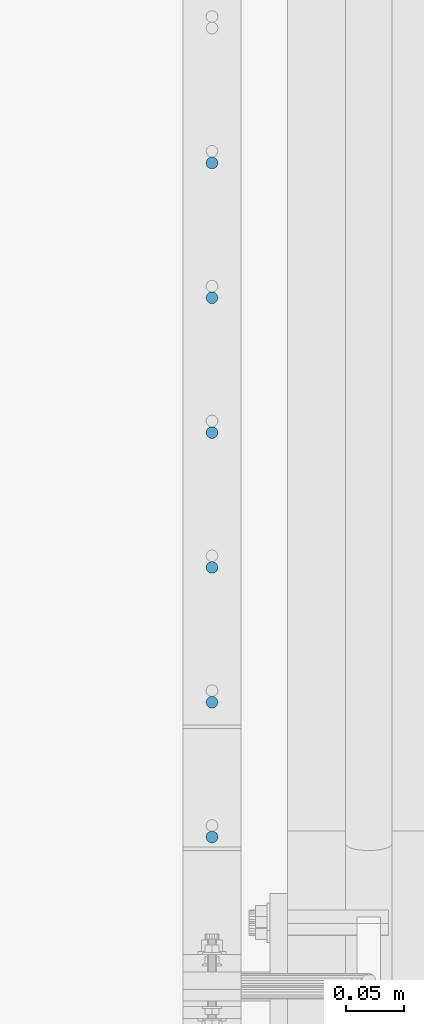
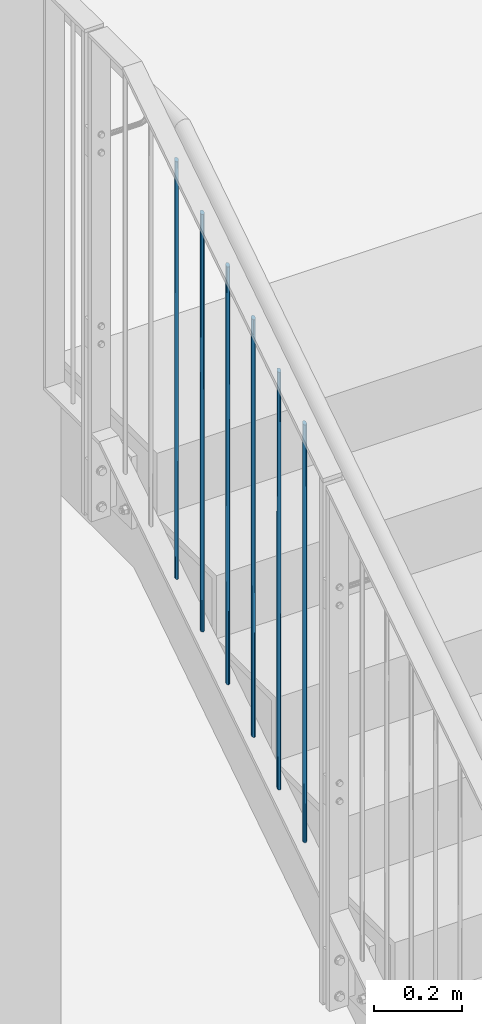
# One storey, part 17 of 296: 6 columns.
"""IFC2X3 building model written with IfcOpenShell, lengths in millimetres."""

from ifc_helpers import new_model, entity, si_unit, converted_unit, frame, origin, origin_with_axes, origin_2d, place, context, project, spatial, circle, extrude, clip, halfspace, material, element, save


model = new_model("IFC2X3")

# Units and contexts
model_context = context("Model", 3, precision=1e-09, world=origin_with_axes())
ifc_project = project(units=[si_unit("LENGTHUNIT", "METRE", prefix="MILLI"), si_unit("AREAUNIT", "SQUARE_METRE"), si_unit("VOLUMEUNIT", "CUBIC_METRE"), converted_unit("PLANEANGLEUNIT", "DEGREE", entity("IfcPlaneAngleMeasure", 0.01745329), si_unit("PLANEANGLEUNIT", "RADIAN"), dimensions=[0, 0, 0, 0, 0, 0, 0])], contexts=[model_context])

# Site, building, storey
site_placement = place(None, origin_with_axes())
site = spatial("IfcSite", under=ifc_project, at=site_placement, Name="TZD-S?d | Treppenhausgel?nder", CompositionType="ELEMENT")
building_placement = place(site_placement, origin_with_axes())
building = spatial("IfcBuilding", under=site, at=building_placement, Name="Struktur 1", CompositionType="ELEMENT")
storey_placement = place(building_placement, origin_with_axes())
storey = spatial("IfcBuildingStorey", under=building, at=storey_placement, Name="Default Storey", CompositionType="ELEMENT", Elevation=0.0)

# Columns
ifc_material = material(Name="S235JR")
column_1_placement = place(None, frame((-45.0, -855.8333333, 2237.236463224), z_axis=(0.0, 0.0, 1.0), x_axis=(0.0, 1.0, 0.0)))
element("IfcColumn", 1, at=column_1_placement, inside=storey, material=ifc_material, Name="-", ObjectType="-", context=model_context, shape_type="Clipping", body=[
    clip(clip(extrude(circle(Radius=5.0, at=origin_2d()), origin(), (0.0, 0.0, 1.0), 1184.937475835), halfspace(frame((-425.744746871, -45.0, -261.817206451), z_axis=(-0.544258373, 0.0, 0.83891765), x_axis=(0.0, -1.0, 0.0)), True)), halfspace(frame((-953.632278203, -45.0, 551.866494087), z_axis=(0.544258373, 0.0, -0.83891765), x_axis=(0.0, 1.0, 0.0)), True)),
])
column_2_placement = place(None, frame((-45.0, -971.9444444, 2161.90792001), z_axis=(0.0, 0.0, 1.0), x_axis=(0.0, 1.0, 0.0)))
element("IfcColumn", 2, at=column_2_placement, inside=storey, material=ifc_material, Name="-", ObjectType="-", context=model_context, shape_type="Clipping", body=[
    clip(clip(extrude(circle(Radius=5.0, at=origin_2d()), origin(), (0.0, 0.0, 1.0), 1184.937475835), halfspace(frame((-309.633635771, -45.0, -186.488663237), z_axis=(-0.544258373, 0.0, 0.83891765), x_axis=(0.0, -1.0, 0.0)), True)), halfspace(frame((-837.521167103, -45.0, 627.195037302), z_axis=(0.544258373, 0.0, -0.83891765), x_axis=(0.0, 1.0, 0.0)), True)),
])
column_3_placement = place(None, frame((-45.0, -1088.0555555, 2086.579376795), z_axis=(0.0, 0.0, 1.0), x_axis=(0.0, 1.0, 0.0)))
element("IfcColumn", 3, at=column_3_placement, inside=storey, material=ifc_material, Name="-", ObjectType="-", context=model_context, shape_type="Clipping", body=[
    clip(clip(extrude(circle(Radius=5.0, at=origin_2d()), origin(), (0.0, 0.0, 1.0), 1184.937475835), halfspace(frame((-721.410056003, -45.0, 702.523580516), z_axis=(0.544258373, 0.0, -0.83891765), x_axis=(0.0, 1.0, 0.0)), True)), halfspace(frame((-193.522524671, -45.0, -111.160120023), z_axis=(-0.544258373, 0.0, 0.83891765), x_axis=(0.0, -1.0, 0.0)), True)),
])
column_4_placement = place(None, frame((-45.0, -1204.1666666, 2011.250833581), z_axis=(0.0, 0.0, 1.0), x_axis=(0.0, 1.0, 0.0)))
element("IfcColumn", 4, at=column_4_placement, inside=storey, material=ifc_material, Name="-", ObjectType="-", context=model_context, shape_type="Clipping", body=[
    clip(clip(extrude(circle(Radius=5.0, at=origin_2d()), origin(), (0.0, 0.0, 1.0), 1184.937475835), halfspace(frame((-605.298944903, -45.0, 777.85212373), z_axis=(0.544258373, 0.0, -0.83891765), x_axis=(0.0, 1.0, 0.0)), True)), halfspace(frame((-77.411413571, -45.0, -35.831576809), z_axis=(-0.544258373, 0.0, 0.83891765), x_axis=(0.0, -1.0, 0.0)), True)),
])
column_5_placement = place(None, frame((-45.0, -1320.2777777, 1935.922290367), z_axis=(0.0, 0.0, 1.0), x_axis=(0.0, 1.0, 0.0)))
element("IfcColumn", 5, at=column_5_placement, inside=storey, material=ifc_material, Name="-", ObjectType="-", context=model_context, shape_type="Clipping", body=[
    clip(clip(extrude(circle(Radius=5.0, at=origin_2d()), origin(), (0.0, 0.0, 1.0), 1184.937475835), halfspace(frame((-489.187833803, -45.0, 853.180666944), z_axis=(0.544258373, 0.0, -0.83891765), x_axis=(0.0, 1.0, 0.0)), True)), halfspace(frame((38.699697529, -45.0, 39.496966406), z_axis=(-0.544258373, 0.0, 0.83891765), x_axis=(0.0, -1.0, 0.0)), True)),
])
column_6_placement = place(None, frame((-45.0, -1436.3888888, 1860.593747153), z_axis=(0.0, 0.0, 1.0), x_axis=(0.0, 1.0, 0.0)))
element("IfcColumn", 6, at=column_6_placement, inside=storey, material=ifc_material, Name="-", ObjectType="-", context=model_context, shape_type="Clipping", body=[
    clip(clip(extrude(circle(Radius=5.0, at=origin_2d()), origin(), (0.0, 0.0, 1.0), 1184.937475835), halfspace(frame((-373.076722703, -45.0, 928.509210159), z_axis=(0.544258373, 0.0, -0.83891765), x_axis=(0.0, 1.0, 0.0)), True)), halfspace(frame((154.810808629, -45.0, 114.82550962), z_axis=(-0.544258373, 0.0, 0.83891765), x_axis=(0.0, -1.0, 0.0)), True)),
])

save(model, "model.ifc")
